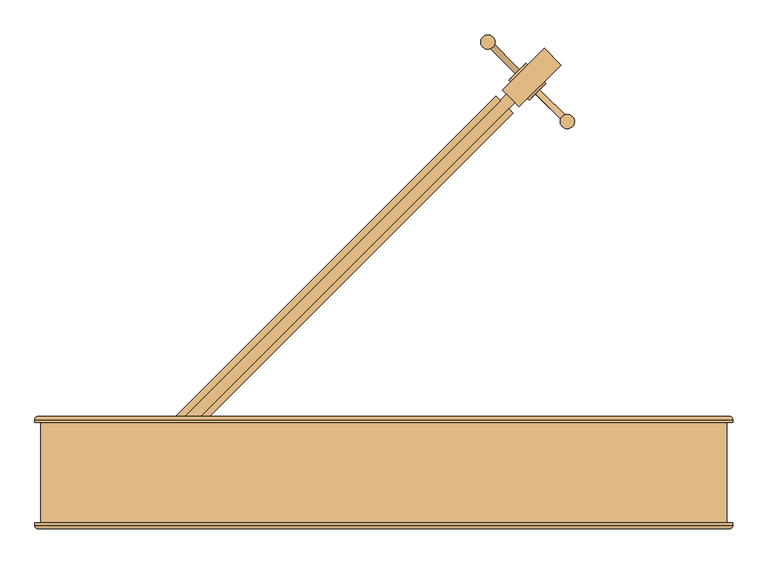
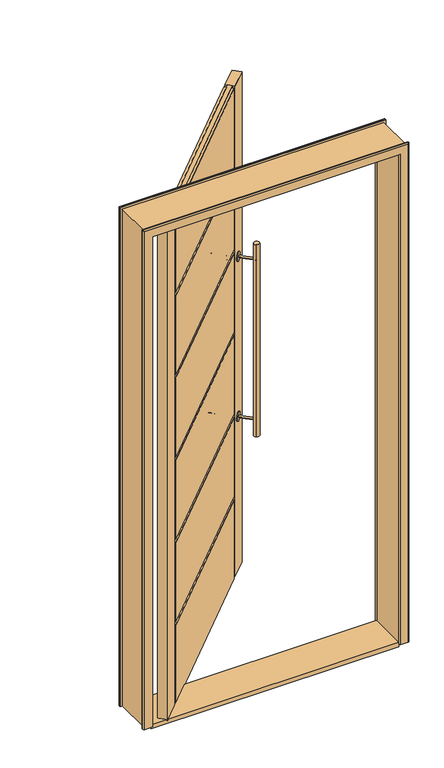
"""IFC4 building model written with IfcOpenShell, lengths in millimetres: door geometry, porta pivotante : porta pivotante."""

from ifc_helpers import new_model, si_unit, point, frame, frame_2d, origin, origin_with_axes, place, context, project, spatial, polyline, circle_curve, ellipse_curve, trimmed, segment, composite_curve, outline, extrude, source, transform, mapped, element, save
from ifc_brep_helpers import plane_surface, cylinder_surface, advanced_brep


def door_2c418a7c(model_context):
    return source(origin(), model_context, "Body", "SolidModel", [
        extrude(outline(composite_curve([segment(trimmed(circle_curve(frame_2d((310.2985888, 593.8375841)), 12.0), [point((301.8133074, 585.3523027))], [point((318.7838702, 602.3228655))], False, "CARTESIAN"), True, "CONTINUOUS"), segment(trimmed(circle_curve(frame_2d((310.2985888, 593.8375841)), 12.0), [point((318.7838702, 602.3228655))], [point((301.8133074, 585.3523027))], False, "CARTESIAN"), True, "CONTINUOUS")], self_intersect=False)), frame((0.0, 0.0, 650.0), z_axis=(0.0, 0.0, 1.0), x_axis=(1.0, 0.0, 0.0)), (0.0, 0.0, 1.0), 900.0),
        extrude(outline(composite_curve([segment(trimmed(circle_curve(frame_2d((0.0, 5.0)), 5.0), [point((0.0, 10.0))], [point((0.0, 0.0))], False, "CARTESIAN"), True, "CONTINUOUS"), segment(trimmed(circle_curve(frame_2d((0.0, 5.0)), 5.0), [point((0.0, 0.0))], [point((0.0, 10.0))], False, "CARTESIAN"), True, "CONTINUOUS")], self_intersect=False)), frame((306.7630549, 590.3020502, 1475.0), z_axis=(-0.7071067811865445, 0.7071067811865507, 0.0), x_axis=(0.0, 0.0, 1.0)), (0.0, 0.0, 1.0), 71.0),
        extrude(outline(composite_curve([segment(trimmed(circle_curve(frame_2d((-750.0, 5.0)), 5.0), [point((-750.0, 10.0))], [point((-750.0, 0.0))], False, "CARTESIAN"), True, "CONTINUOUS"), segment(trimmed(circle_curve(frame_2d((-750.0, 5.0)), 5.0), [point((-750.0, 0.0))], [point((-750.0, 10.0))], False, "CARTESIAN"), True, "CONTINUOUS")], self_intersect=False)), frame((306.7630549, 590.3020502, 1475.0), z_axis=(-0.7071067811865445, 0.7071067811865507, 0.0), x_axis=(0.0, 0.0, 1.0)), (0.0, 0.0, 1.0), 71.0),
        extrude(outline(composite_curve([segment(trimmed(circle_curve(frame_2d((0.0, 20.0)), 20.0), [point((0.0, 40.0000001))], [point((0.0, 0.0))], False, "CARTESIAN"), True, "CONTINUOUS"), segment(trimmed(circle_curve(frame_2d((0.0, 20.0)), 20.0), [point((0.0, 0.0))], [point((0.0, 40.0000001))], False, "CARTESIAN"), True, "CONTINUOUS")], self_intersect=False)), frame((274.236143, 658.1843012, 1475.0), z_axis=(-0.7071067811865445, 0.7071067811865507, 0.0), x_axis=(0.0, 0.0, -1.0)), (0.0, 0.0, 1.0), 4.0),
        extrude(outline(composite_curve([segment(trimmed(circle_curve(frame_2d((750.0, 20.0)), 20.0), [point((750.0, 40.0000001))], [point((750.0, 0.0))], False, "CARTESIAN"), True, "CONTINUOUS"), segment(trimmed(circle_curve(frame_2d((750.0, 20.0)), 20.0), [point((750.0, 0.0))], [point((750.0, 40.0000001))], False, "CARTESIAN"), True, "CONTINUOUS")], self_intersect=False)), frame((274.236143, 658.1843012, 1475.0), z_axis=(-0.7071067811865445, 0.7071067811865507, 0.0), x_axis=(0.0, 0.0, -1.0)), (0.0, 0.0, 1.0), 4.0),
        extrude(outline(composite_curve([segment(trimmed(circle_curve(frame_2d((175.9483004, 728.1878725)), 12.0), [point((167.463019, 719.7025912))], [point((184.4335817, 736.6731539))], False, "CARTESIAN"), True, "CONTINUOUS"), segment(trimmed(circle_curve(frame_2d((175.9483004, 728.1878725)), 12.0), [point((184.4335817, 736.6731539))], [point((167.463019, 719.7025912))], False, "CARTESIAN"), True, "CONTINUOUS")], self_intersect=False)), frame((0.0, 0.0, 650.0), z_axis=(0.0, 0.0, 1.0), x_axis=(1.0, 0.0, 0.0)), (0.0, 0.0, 1.0), 900.0),
        extrude(outline(composite_curve([segment(trimmed(circle_curve(frame_2d((0.0, -5.0)), 5.0), [point((0.0, -10.0))], [point((0.0, 0.0))], False, "CARTESIAN"), True, "CONTINUOUS"), segment(trimmed(circle_curve(frame_2d((0.0, -5.0)), 5.0), [point((0.0, 0.0))], [point((0.0, -10.0))], False, "CARTESIAN"), True, "CONTINUOUS")], self_intersect=False)), frame((222.6173479, 674.4477572, 1475.0), z_axis=(-0.7071067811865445, 0.7071067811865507, 0.0), x_axis=(0.0, 0.0, -1.0)), (0.0, 0.0, 1.0), 71.0),
        extrude(outline(composite_curve([segment(trimmed(circle_curve(frame_2d((750.0, -5.0)), 5.0), [point((750.0, -10.0))], [point((750.0, 0.0))], False, "CARTESIAN"), True, "CONTINUOUS"), segment(trimmed(circle_curve(frame_2d((750.0, -5.0)), 5.0), [point((750.0, 0.0))], [point((750.0, -10.0))], False, "CARTESIAN"), True, "CONTINUOUS")], self_intersect=False)), frame((222.6173479, 674.4477572, 1475.0), z_axis=(-0.7071067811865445, 0.7071067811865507, 0.0), x_axis=(0.0, 0.0, -1.0)), (0.0, 0.0, 1.0), 71.0),
        extrude(outline(composite_curve([segment(trimmed(circle_curve(frame_2d((0.0, -20.0)), 20.0), [point((0.0, -40.0000001))], [point((0.0, 0.0))], False, "CARTESIAN"), True, "CONTINUOUS"), segment(trimmed(circle_curve(frame_2d((0.0, -20.0)), 20.0), [point((0.0, 0.0))], [point((0.0, -40.0000001))], False, "CARTESIAN"), True, "CONTINUOUS")], self_intersect=False)), frame((243.1234446, 689.2969996, 1475.0), z_axis=(-0.7071067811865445, 0.7071067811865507, 0.0), x_axis=(0.0, 0.0, 1.0)), (0.0, 0.0, 1.0), 4.0),
        extrude(outline(composite_curve([segment(trimmed(circle_curve(frame_2d((-750.0, -20.0)), 20.0), [point((-750.0, -40.0000001))], [point((-750.0, 0.0))], False, "CARTESIAN"), True, "CONTINUOUS"), segment(trimmed(circle_curve(frame_2d((-750.0, -20.0)), 20.0), [point((-750.0, 0.0))], [point((-750.0, -40.0000001))], False, "CARTESIAN"), True, "CONTINUOUS")], self_intersect=False)), frame((243.1234446, 689.2969996, 1475.0), z_axis=(-0.7071067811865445, 0.7071067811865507, 0.0), x_axis=(0.0, 0.0, 1.0)), (0.0, 0.0, 1.0), 4.0),
        extrude(outline(polyline([(-425.0924636, 21.0810913), (190.090436, 636.263991), (197.1615038, 629.1929232), (-418.0213958, 14.0100235), (-425.0924636, 21.0810913)])), frame((0.0, 0.0, 1931.6666667), z_axis=(0.0, 0.0, 1.0), x_axis=(1.0, 0.0, 0.0)), (0.0, 0.0, 1.0), 368.3333333),
        extrude(outline(polyline([(-425.0924636, 21.0810913), (190.090436, 636.263991), (197.1615038, 629.1929232), (-418.0213958, 14.0100235), (-425.0924636, 21.0810913)])), frame((0.0, 0.0, 1545.3333333), z_axis=(0.0, 0.0, 1.0), x_axis=(1.0, 0.0, 0.0)), (0.0, 0.0, 1.0), 368.3333333),
        extrude(outline(polyline([(-425.0924636, 21.0810913), (190.090436, 636.263991), (197.1615038, 629.1929232), (-418.0213958, 14.0100235), (-425.0924636, 21.0810913)])), frame((0.0, 0.0, 1159.0), z_axis=(0.0, 0.0, 1.0), x_axis=(1.0, 0.0, 0.0)), (0.0, 0.0, 1.0), 368.3333333),
        extrude(outline(polyline([(-425.0924636, 21.0810913), (190.090436, 636.263991), (197.1615038, 629.1929232), (-418.0213958, 14.0100235), (-425.0924636, 21.0810913)])), frame((0.0, 0.0, 772.6666667), z_axis=(0.0, 0.0, 1.0), x_axis=(1.0, 0.0, 0.0)), (0.0, 0.0, 1.0), 368.3333333),
        extrude(outline(polyline([(-425.0924636, 21.0810913), (190.090436, 636.263991), (197.1615038, 629.1929232), (-418.0213958, 14.0100235), (-425.0924636, 21.0810913)])), frame((0.0, 0.0, 386.3333333), z_axis=(0.0, 0.0, 1.0), x_axis=(1.0, 0.0, 0.0)), (0.0, 0.0, 1.0), 368.3333333),
        extrude(outline(polyline([(-403.8792602, -0.1321121), (211.3036394, 615.0507875), (218.3747072, 607.9797197), (-396.8081924, -7.2031799), (-403.8792602, -0.1321121)])), frame((0.0, 0.0, 1931.6666667), z_axis=(0.0, 0.0, 1.0), x_axis=(1.0, 0.0, 0.0)), (0.0, 0.0, 1.0), 368.3333333),
        extrude(outline(polyline([(-403.8792602, -0.1321121), (211.3036394, 615.0507875), (218.3747072, 607.9797197), (-396.8081924, -7.2031799), (-403.8792602, -0.1321121)])), frame((0.0, 0.0, 1545.3333333), z_axis=(0.0, 0.0, 1.0), x_axis=(1.0, 0.0, 0.0)), (0.0, 0.0, 1.0), 368.3333333),
        extrude(outline(polyline([(-403.8792602, -0.1321121), (211.3036394, 615.0507875), (218.3747072, 607.9797197), (-396.8081924, -7.2031799), (-403.8792602, -0.1321121)])), frame((0.0, 0.0, 1159.0), z_axis=(0.0, 0.0, 1.0), x_axis=(1.0, 0.0, 0.0)), (0.0, 0.0, 1.0), 368.3333333),
        extrude(outline(polyline([(-403.8792602, -0.1321121), (211.3036394, 615.0507875), (218.3747072, 607.9797197), (-396.8081924, -7.2031799), (-403.8792602, -0.1321121)])), frame((0.0, 0.0, 772.6666667), z_axis=(0.0, 0.0, 1.0), x_axis=(1.0, 0.0, 0.0)), (0.0, 0.0, 1.0), 368.3333333),
        extrude(outline(polyline([(-403.8792602, -0.1321121), (211.3036394, 615.0507875), (218.3747072, 607.9797197), (-396.8081924, -7.2031799), (-403.8792602, -0.1321121)])), frame((0.0, 0.0, 386.3333333), z_axis=(0.0, 0.0, 1.0), x_axis=(1.0, 0.0, 0.0)), (0.0, 0.0, 1.0), 368.3333333),
        extrude(outline(polyline([(-425.0924636, 21.0810913), (190.090436, 636.263991), (197.1615038, 629.1929232), (-418.0213958, 14.0100235), (-425.0924636, 21.0810913)])), origin_with_axes(), (0.0, 0.0, 1.0), 368.3333333),
        extrude(outline(polyline([(-403.8792602, -0.1321121), (211.3036394, 615.0507875), (218.3747072, 607.9797197), (-396.8081924, -7.2031799), (-403.8792602, -0.1321121)])), origin_with_axes(), (0.0, 0.0, 1.0), 368.3333333),
        extrude(outline(polyline([(-428.6279975, 3.4034218), (207.7681055, 639.7995249), (221.9102412, 625.6573893), (-414.4858619, -10.7387138), (-428.6279975, 3.4034218)])), origin_with_axes(), (0.0, 0.0, 1.0), 2300.0),
        extrude(outline(polyline([(-435.6990654, 10.4744896), (-407.4147941, -17.8097816), (-478.1254722, -88.5204597), (-506.4097435, -60.2361885), (-435.6990654, 10.4744896)])), origin_with_axes(), (0.0, 0.0, 1.0), 2300.0),
        extrude(outline(polyline([(200.6970377, 646.8705927), (271.4077158, 717.5812708), (299.6919871, 689.2969996), (228.981309, 618.5863214), (200.6970377, 646.8705927)])), origin_with_axes(), (0.0, 0.0, 1.0), 2300.0),
        advanced_brep(
        [(-590.0, -85.0, 0.0), (-550.0, -85.0, 0.0), (-550.0, -95.0, 0.0), (-585.0, -95.0, 0.0), (-590.0, -90.0, 0.0), (-590.0, -85.0, 2340.0), (590.0, -85.0, 2340.0), (590.0, -85.0, 0.0), (550.0, -85.0, 0.0), (550.0, -85.0, 2300.0), (-550.0, -85.0, 2300.0), (-550.0, -95.0, 2300.0), (550.0, -95.0, 2300.0), (550.0, -95.0, 0.0), (585.0, -95.0, 0.0), (585.0, -95.0, 2335.0), (-585.0, -95.0, 2335.0), (-590.0, -90.0, 2340.0), (590.0, -90.0, 2340.0), (590.0, -90.0, 0.0)],
        [
            (0, 1),
            (1, 2),
            (2, 3),
            (3, 4, circle_curve(frame((-585.0, -90.0, 0.0), z_axis=(0.0, 0.0, -1.0), x_axis=(0.0, -1.0, 0.0)), 5.0)),
            (4, 0),
            (0, 5),
            (5, 6),
            (6, 7),
            (7, 8),
            (8, 9),
            (9, 10),
            (10, 1),
            (10, 11),
            (11, 2),
            (11, 12),
            (12, 13),
            (13, 14),
            (14, 15),
            (15, 16),
            (16, 3),
            (16, 17, ellipse_curve(frame((-585.0, -90.0, 2335.0), z_axis=(-0.7071067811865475, 0.0, -0.7071067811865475), x_axis=(0.7071067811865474, 0.0, -0.7071067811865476)), 7.0710678, 5.0)),
            (17, 4),
            (17, 5),
            (6, 18),
            (18, 19),
            (19, 7),
            (19, 14, circle_curve(frame((585.0, -90.0, 0.0), z_axis=(0.0, 0.0, -1.0), x_axis=(0.0, -1.0, 0.0)), 5.0)),
            (13, 8),
            (12, 9),
            (18, 15, ellipse_curve(frame((585.0, -90.0, 2335.0), z_axis=(0.7071067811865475, 0.0, -0.7071067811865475), x_axis=(0.7071067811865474, 0.0, 0.7071067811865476)), 7.0710678, 5.0)),
            (18, 17),
        ],
        [
            plane_surface(frame((-580.0, -85.0, 0.0), z_axis=(0.0, 0.0, -1.0), x_axis=(0.0, -1.0, 0.0))),
            plane_surface(frame((-590.0, -85.0, 0.0), z_axis=(0.0, 1.0, 0.0), x_axis=(0.0, 0.0, 1.0))),
            plane_surface(frame((-550.0, -85.0, 0.0), z_axis=(1.0, 0.0, 0.0), x_axis=(0.0, 0.0, 1.0))),
            plane_surface(frame((-550.0, -95.0, 0.0), z_axis=(0.0, -1.0, 0.0), x_axis=(0.0, 0.0, 1.0))),
            cylinder_surface(frame((-585.0, -90.0, 0.0), z_axis=(0.0, 0.0, -1.0), x_axis=(0.0, -1.0, 0.0)), 5.0),
            plane_surface(frame((-590.0, -90.0, 0.0), z_axis=(-1.0, 0.0, 0.0), x_axis=(0.0, 0.0, 1.0))),
            plane_surface(frame((590.0, -90.0, 2340.0), z_axis=(1.0, 0.0, 0.0), x_axis=(0.0, 0.0, -1.0))),
            plane_surface(frame((580.0, -85.0, 0.0), z_axis=(0.0, 0.0, -1.0), x_axis=(0.0, -1.0, 0.0))),
            plane_surface(frame((550.0, -85.0, 2300.0), z_axis=(-1.0, 0.0, 0.0), x_axis=(0.0, 0.0, -1.0))),
            cylinder_surface(frame((585.0, -90.0, 2330.0), z_axis=(0.0, 0.0, 1.0), x_axis=(0.0, -1.0, 0.0)), 5.0),
            plane_surface(frame((-550.0, -85.0, 2300.0), z_axis=(0.0, 0.0, -1.0), x_axis=(1.0, 0.0, 0.0))),
            cylinder_surface(frame((-580.0, -90.0, 2335.0), z_axis=(-1.0, 0.0, 0.0), x_axis=(0.0, -1.0, 0.0)), 5.0),
            plane_surface(frame((-590.0, -90.0, 2340.0), z_axis=(0.0, 0.0, 1.0), x_axis=(1.0, 0.0, 0.0))),
        ],
        [
            (0, [[1, 2, 3, 4, 5]]),
            (1, [[-1, 6, 7, 8, 9, 10, 11, 12]]),
            (2, [[-2, -12, 13, 14]]),
            (3, [[-3, -14, 15, 16, 17, 18, 19, 20]]),
            (4, [[-4, -20, 21, 22]]),
            (5, [[-5, -22, 23, -6]]),
            (6, [[24, 25, 26, -8]]),
            (7, [[-26, 27, -17, 28, -9]]),
            (8, [[29, -10, -28, -16]]),
            (9, [[30, -18, -27, -25]]),
            (10, [[-13, -11, -29, -15]]),
            (11, [[-21, -19, -30, 31]]),
            (12, [[-23, -31, -24, -7]]),
        ],
    ),
        advanced_brep(
        [(590.0, 85.0, 0.0), (550.0, 85.0, 0.0), (550.0, 95.0, 0.0), (584.1699538, 95.0, 0.0), (590.0, 89.1699538, 0.0), (590.0, 85.0, 2340.0), (-590.0, 85.0, 2340.0), (-590.0, 85.0, 0.0), (-550.0, 85.0, 0.0), (-550.0, 85.0, 2300.0), (550.0, 85.0, 2300.0), (550.0, 95.0, 2300.0), (-550.0, 95.0, 2300.0), (-550.0, 95.0, 0.0), (-584.1699538, 95.0, 0.0), (-584.1699538, 95.0, 2334.1699538), (584.1699538, 95.0, 2334.1699538), (590.0, 89.1699538, 2340.0), (-590.0, 89.1699538, 2340.0), (-590.0, 89.1699538, 0.0)],
        [
            (0, 1),
            (1, 2),
            (2, 3),
            (3, 4, circle_curve(frame((584.1699538, 89.1699538, 0.0), z_axis=(0.0, 0.0, -1.0), x_axis=(0.0, -1.0, 0.0)), 5.8300462)),
            (4, 0),
            (0, 5),
            (5, 6),
            (6, 7),
            (7, 8),
            (8, 9),
            (9, 10),
            (10, 1),
            (10, 11),
            (11, 2),
            (11, 12),
            (12, 13),
            (13, 14),
            (14, 15),
            (15, 16),
            (16, 3),
            (16, 17, ellipse_curve(frame((584.1699538, 89.1699538, 2334.1699538), z_axis=(0.7071067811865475, 0.0, -0.7071067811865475), x_axis=(-0.7071067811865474, 0.0, -0.7071067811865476)), 8.2449304, 5.8300462)),
            (17, 4),
            (17, 5),
            (6, 18),
            (18, 19),
            (19, 7),
            (19, 14, circle_curve(frame((-584.1699538, 89.1699538, 0.0), z_axis=(0.0, 0.0, -1.0), x_axis=(0.0, -1.0, 0.0)), 5.8300462)),
            (13, 8),
            (12, 9),
            (18, 15, ellipse_curve(frame((-584.1699538, 89.1699538, 2334.1699538), z_axis=(-0.7071067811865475, 0.0, -0.7071067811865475), x_axis=(-0.7071067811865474, 0.0, 0.7071067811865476)), 8.2449304, 5.8300462)),
            (18, 17),
        ],
        [
            plane_surface(frame((580.0, 85.0, 0.0), z_axis=(0.0, 0.0, -1.0), x_axis=(0.0, -1.0, 0.0))),
            plane_surface(frame((590.0, 85.0, 0.0), z_axis=(0.0, -1.0, 0.0), x_axis=(0.0, 0.0, 1.0))),
            plane_surface(frame((550.0, 85.0, 0.0), z_axis=(-1.0, 0.0, 0.0), x_axis=(0.0, 0.0, 1.0))),
            plane_surface(frame((550.0, 95.0, 0.0), z_axis=(0.0, 1.0, 0.0), x_axis=(0.0, 0.0, 1.0))),
            cylinder_surface(frame((584.1699538, 89.1699538, 0.0), z_axis=(0.0, 0.0, -1.0), x_axis=(0.0, -1.0, 0.0)), 5.8300462),
            plane_surface(frame((590.0, 89.1699538, 0.0), z_axis=(1.0, 0.0, 0.0), x_axis=(0.0, 0.0, 1.0))),
            plane_surface(frame((-590.0, 89.1699538, 2340.0), z_axis=(-1.0, 0.0, 0.0), x_axis=(0.0, 0.0, -1.0))),
            plane_surface(frame((-580.0, 85.0, 0.0), z_axis=(0.0, 0.0, -1.0), x_axis=(0.0, -1.0, 0.0))),
            plane_surface(frame((-550.0, 85.0, 2300.0), z_axis=(1.0, 0.0, 0.0), x_axis=(0.0, 0.0, -1.0))),
            cylinder_surface(frame((-584.1699538, 89.1699538, 2330.0), z_axis=(0.0, 0.0, 1.0), x_axis=(0.0, -1.0, 0.0)), 5.8300462),
            plane_surface(frame((550.0, 85.0, 2300.0), z_axis=(0.0, 0.0, -1.0), x_axis=(-1.0, 0.0, 0.0))),
            cylinder_surface(frame((580.0, 89.1699538, 2334.1699538), z_axis=(1.0, 0.0, 0.0), x_axis=(0.0, -1.0, 0.0)), 5.8300462),
            plane_surface(frame((590.0, 89.1699538, 2340.0), z_axis=(0.0, 0.0, 1.0), x_axis=(-1.0, 0.0, 0.0))),
        ],
        [
            (0, [[1, 2, 3, 4, 5]]),
            (1, [[-1, 6, 7, 8, 9, 10, 11, 12]]),
            (2, [[-2, -12, 13, 14]]),
            (3, [[-3, -14, 15, 16, 17, 18, 19, 20]]),
            (4, [[-4, -20, 21, 22]]),
            (5, [[-5, -22, 23, -6]]),
            (6, [[24, 25, 26, -8]]),
            (7, [[-26, 27, -17, 28, -9]]),
            (8, [[29, -10, -28, -16]]),
            (9, [[30, -18, -27, -25]]),
            (10, [[-13, -11, -29, -15]]),
            (11, [[-21, -19, -30, 31]]),
            (12, [[-23, -31, -24, -7]]),
        ],
    ),
        extrude(outline(polyline([(0.0, 550.0), (0.0, 580.0), (2330.0, 580.0), (2330.0, -580.0), (0.0, -580.0), (0.0, -550.0), (2300.0, -550.0), (2300.0, 550.0), (0.0, 550.0)])), frame((0.0, -85.0, 0.0), z_axis=(0.0, 1.0, 0.0), x_axis=(0.0, 0.0, 1.0)), (0.0, 0.0, 1.0), 170.0),
        extrude(outline(polyline([(-550.0, 85.0), (550.0, 85.0), (550.0, -85.0), (-550.0, -85.0), (-550.0, 85.0)])), frame((0.0, 0.0, -15.0), z_axis=(0.0, 0.0, 1.0), x_axis=(1.0, 0.0, 0.0)), (0.0, 0.0, 1.0), 20.0),
    ])


if __name__ == "__main__":
    model = new_model("IFC4")
    model_context = context("Model", 3, world=origin())
    ifc_project = project(units=[si_unit("LENGTHUNIT", "METRE", prefix="MILLI")], contexts=[model_context])
    site = spatial("IfcSite", under=ifc_project)
    building = spatial("IfcBuilding", under=site)
    placement = place(None, origin())
    door_shape = door_2c418a7c(model_context)
    element("IfcDoor", 1, ObjectType="porta pivotante : porta pivotante", at=placement, inside=building, context=model_context, shape_type="MappedRepresentation", body=[
        mapped(door_shape, transform((0.0, 0.0, 0.0), x_axis=(1.0, 0.0, 0.0), y_axis=(0.0, 1.0, 0.0), z_axis=(0.0, 0.0, 1.0))),
    ])
    save(model, "model.ifc")
